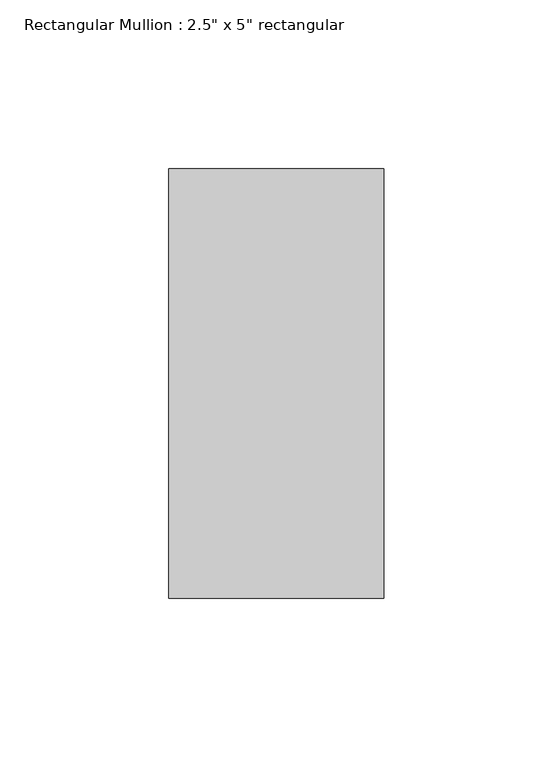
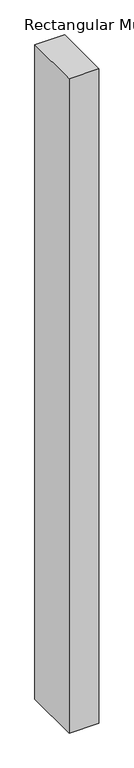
"""IFC4 building model written with IfcOpenShell, lengths in millimetres: member geometry."""

from ifc_helpers import new_model, si_unit, frame, origin, place, context, project, spatial, polyline, outline, extrude, source, transform, mapped, element, save


def member_8ac793cf(model_context):
    return source(origin(), model_context, "Body", "SweptSolid", [
        extrude(outline(polyline([(31.75, 63.5), (31.75, -63.5), (-31.75, -63.5), (-31.75, 63.5), (31.75, 63.5)])), frame((0.0, 0.0, -1478.1654135), z_axis=(0.0, 0.0, 1.0), x_axis=(1.0, 0.0, 0.0)), (0.0, 0.0, 1.0), 1478.1654135),
    ])


if __name__ == "__main__":
    model = new_model("IFC4")
    model_context = context("Model", 3, world=origin())
    ifc_project = project(units=[si_unit("LENGTHUNIT", "METRE", prefix="MILLI")], contexts=[model_context])
    site = spatial("IfcSite", under=ifc_project)
    building = spatial("IfcBuilding", under=site)
    placement = place(None, origin())
    member_shape = member_8ac793cf(model_context)
    element("IfcMember", 1, ObjectType="Rectangular Mullion : 2.5\" x 5\" rectangular", at=placement, inside=building, context=model_context, shape_type="MappedRepresentation", body=[
        mapped(member_shape, transform((0.0, 0.0, 0.0), x_axis=(1.0, 0.0, 0.0), y_axis=(0.0, 1.0, 0.0), z_axis=(0.0, 0.0, 1.0))),
    ])
    save(model, "model.ifc")
